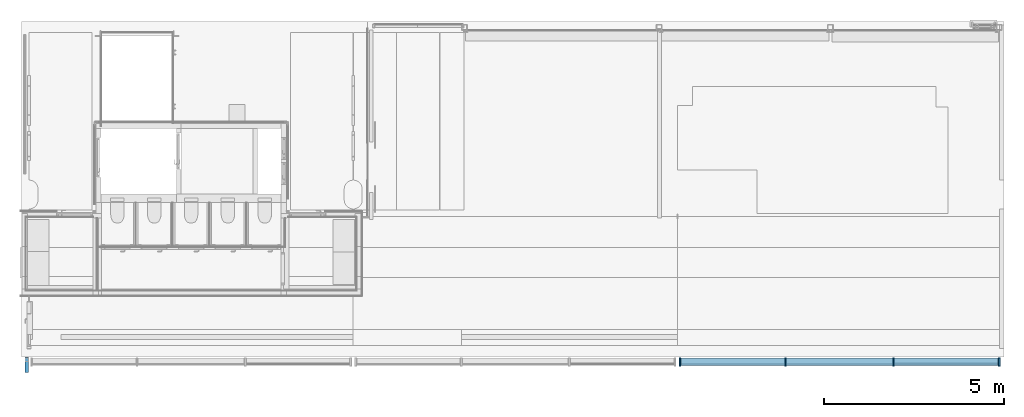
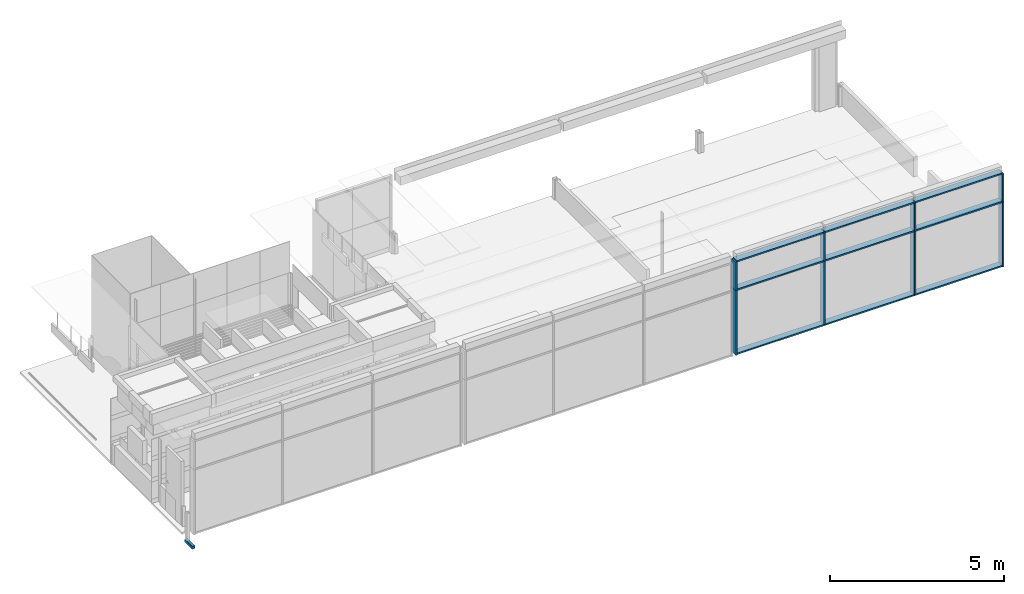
# One storey, part 5 of 26: 17 members, 1 beam, 1 element without a shape of its own.
"""IFC2X3 building model written with IfcOpenShell, lengths in millimetres."""

from ifc_helpers import new_model, entity, si_unit, converted_unit, derived_unit, direction, frame, frame_2d, origin, origin_with_axes, origin_2d_with_axis, place, context, subcontext, project, spatial, polyline, circle_curve, parameter, trimmed, segment, composite_curve, rectangle, outline, extrude, source, transform, mapped, material, type_object, element, aggregate, save


model = new_model("IFC2X3")

# Units and contexts
model_context = context("Model", 3, precision=0.01, world=frame((0.0, 4.29681676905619e-09, 0.0)), true_north=direction((4.01073788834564e-13, 1.0)))
plan_context = context("Plan", 3, precision=0.01, world=frame((0.0, 4.29681676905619e-09, 0.0)), true_north=direction((4.01073788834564e-13, 1.0)))
body_context = subcontext(model_context, "Body", "Model", "MODEL_VIEW")
ifc_project = project(units=[converted_unit("PLANEANGLEUNIT", "DEGREE", entity("IfcPositiveLengthMeasure", 0.0174532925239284), si_unit("PLANEANGLEUNIT", "RADIAN"), dimensions=[0, 0, 0, 0, 0, 0, 0]), si_unit("AREAUNIT", "SQUARE_METRE"), si_unit("LENGTHUNIT", "METRE", prefix="MILLI"), si_unit("MASSUNIT", "GRAM", prefix="KILO"), si_unit("POWERUNIT", "WATT"), si_unit("PRESSUREUNIT", "PASCAL", prefix="KILO"), si_unit("FORCEUNIT", "NEWTON", prefix="KILO"), si_unit("ELECTRICVOLTAGEUNIT", "VOLT"), si_unit("ELECTRICCURRENTUNIT", "AMPERE"), si_unit("THERMODYNAMICTEMPERATUREUNIT", "DEGREE_CELSIUS"), si_unit("TIMEUNIT", "SECOND"), si_unit("VOLUMEUNIT", "CUBIC_METRE"), derived_unit("LINEARVELOCITYUNIT", [(si_unit("LENGTHUNIT", "METRE"), 1), (si_unit("TIMEUNIT", "SECOND"), -1)]), derived_unit("VOLUMETRICFLOWRATEUNIT", [(si_unit("VOLUMEUNIT", "CUBIC_METRE"), 1), (si_unit("TIMEUNIT", "SECOND"), -1)]), derived_unit("THERMALTRANSMITTANCEUNIT", [(si_unit("POWERUNIT", "WATT"), 1), (si_unit("THERMODYNAMICTEMPERATUREUNIT", "KELVIN"), -1), (si_unit("AREAUNIT", "SQUARE_METRE"), -1)]), derived_unit("SOUNDPRESSUREUNIT", [(si_unit("PRESSUREUNIT", "PASCAL"), 1)])], contexts=[model_context, plan_context])

# Site, building, storey
site_placement = place(None, origin_with_axes())
site = spatial("IfcSite", under=ifc_project, at=site_placement, Name="ENGM", CompositionType="ELEMENT")
building_placement = place(site_placement, origin_with_axes())
building = spatial("IfcBuilding", under=site, at=building_placement, Name="TG", CompositionType="ELEMENT")
storey_placement = place(building_placement, frame((0.0, 0.0, 210200.0), z_axis=(0.0, 0.0, 1.0), x_axis=(1.0, 0.0, 0.0)))
storey = spatial("IfcBuildingStorey", under=building, at=storey_placement, Name="Nivå F - 0,7 m", CompositionType="ELEMENT", Elevation=210200.0)

# Curtain wall, members
curtain_wall_type = type_object("IfcCurtainWallType", Name="Curtain Wall:A232 - UGV - Glass 30 mm", PredefinedType="NOTDEFINED")
curtain_wall_placement = place(storey_placement, frame((0.0, 0.0, -210200.0), z_axis=(0.0, 0.0, 1.0), x_axis=(1.0, 0.0, 0.0)))
curtain_wall = element("IfcCurtainWall", 1, at=curtain_wall_placement, inside=storey, type_object=curtain_wall_type, Name="Curtain Wall:A232 - UGV - Glass 30 mm", ObjectType="Curtain Wall:A232 - UGV - Glass 30 mm")
ifc_material_1 = material(Name="T2_Metal_Aluminium")
member_type_1 = type_object("IfcMemberType", Name="Rectangular Mullion:A233 - Sprosse - 165(post)+50(dekkprofil) x 50 mm", PredefinedType="MULLION", material=ifc_material_1)
shared_shape_1 = source(origin(), body_context, "Body", "SweptSolid", [
    extrude(rectangle(XDim=214.999999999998, YDim=50.0, at=frame_2d((7.105427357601e-15, 0.0), x_axis=(1.0, 0.0))), frame((-25.0, 57.5000000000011, -2905.0), z_axis=(0.0, 0.0, 1.0), x_axis=(0.0, -1.0, 0.0)), (0.0, 0.0, 1.0), 2904.99999999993),
])
member_1_placement = place(curtain_wall_placement, frame((342999.725000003, 458000.0, 210180.0), z_axis=(1.0, 0.0, 0.0), x_axis=(0.0, 0.0, -1.0)))
member_1 = element("IfcMember", 2, at=member_1_placement, type_object=member_type_1, material=ifc_material_1, Name="Rectangular Mullion:A233 - Sprosse - 165(post)+50(dekkprofil) x 50 mm", ObjectType="Rectangular Mullion:A233 - Sprosse - 165(post)+50(dekkprofil) x 50 mm", context=body_context, shape_type="MappedRepresentation", body=[
    mapped(shared_shape_1, transform((0.0, 0.0, 0.0), scale=1.0)),
])
member_type_2 = type_object("IfcMemberType", Name="Rectangular Mullion:A233 - Sprosse - 165(post)+50(dekkprofil) x 50 mm", PredefinedType="MULLION", material=ifc_material_1)
shared_shape_2 = source(origin(), body_context, "Body", "SweptSolid", [
    extrude(rectangle(XDim=214.999999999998, YDim=50.0, at=frame_2d((7.105427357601e-15, 0.0), x_axis=(1.0, 0.0))), frame((-25.0, 57.5000000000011, -3000.0), z_axis=(0.0, 0.0, 1.0), x_axis=(0.0, -1.0, 0.0)), (0.0, 0.0, 1.0), 3000.00000000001),
])
member_2_placement = place(curtain_wall_placement, frame((345999.725000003, 457999.999999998, 210180.0), z_axis=(1.0, 0.0, 0.0), x_axis=(0.0, 0.0, -1.0)))
member_2 = element("IfcMember", 3, at=member_2_placement, type_object=member_type_2, material=ifc_material_1, Name="Rectangular Mullion:A233 - Sprosse - 165(post)+50(dekkprofil) x 50 mm", ObjectType="Rectangular Mullion:A233 - Sprosse - 165(post)+50(dekkprofil) x 50 mm", context=body_context, shape_type="MappedRepresentation", body=[
    mapped(shared_shape_2, transform((0.0, 0.0, 0.0), scale=1.0)),
])
member_type_3 = type_object("IfcMemberType", Name="Rectangular Mullion:A233 - Sprosse - 165(post)+70(dekkprofil) x 50 mm", PredefinedType="MULLION", material=ifc_material_1)
shared_shape_3 = source(origin(), body_context, "Body", "SweptSolid", [
    extrude(rectangle(XDim=50.0, YDim=234.999999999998, at=origin_2d_with_axis()), frame((0.0, 47.5000000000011, -2225.0), z_axis=(0.0, 0.0, 1.0), x_axis=(-1.0, 0.0, 0.0)), (0.0, 0.0, 1.0), 2224.99999999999),
])
member_3_placement = place(curtain_wall_placement, frame((342999.725000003, 458000.0, 210230.0), z_axis=(0.0, 0.0, -1.0), x_axis=(-1.0, 0.0, 0.0)))
member_3 = element("IfcMember", 4, at=member_3_placement, type_object=member_type_3, material=ifc_material_1, Name="Rectangular Mullion:A233 - Sprosse - 165(post)+70(dekkprofil) x 50 mm", ObjectType="Rectangular Mullion:A233 - Sprosse - 165(post)+70(dekkprofil) x 50 mm", context=body_context, shape_type="MappedRepresentation", body=[
    mapped(shared_shape_3, transform((0.0, 0.0, 0.0), scale=1.0)),
])
member_4_placement = place(curtain_wall_placement, frame((345999.725000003, 457999.999999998, 210230.0), z_axis=(0.0, 0.0, -1.0), x_axis=(-1.0, 0.0, 0.0)))
member_4 = element("IfcMember", 5, at=member_4_placement, type_object=member_type_3, material=ifc_material_1, Name="Rectangular Mullion:A233 - Sprosse - 165(post)+70(dekkprofil) x 50 mm", ObjectType="Rectangular Mullion:A233 - Sprosse - 165(post)+70(dekkprofil) x 50 mm", context=body_context, shape_type="MappedRepresentation", body=[
    mapped(shared_shape_3, transform((0.0, 0.0, 0.0), scale=1.0)),
])
member_type_4 = type_object("IfcMemberType", Name="Rectangular Mullion:A233 - Sprosse - 165(post)+70(dekkprofil) x 50 mm", PredefinedType="MULLION", material=ifc_material_1)
shared_shape_4 = source(origin(), body_context, "Body", "SweptSolid", [
    extrude(rectangle(XDim=234.999999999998, YDim=50.0, at=frame_2d((7.105427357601e-15, 0.0), x_axis=(1.0, 0.0))), frame((-25.0, 47.5000000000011, -1000.0), z_axis=(0.0, 0.0, 1.0), x_axis=(0.0, -1.0, 0.0)), (0.0, 0.0, 1.0), 1000.0),
])
member_5_placement = place(curtain_wall_placement, frame((348953.500000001, 457999.999999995, 213455.0), z_axis=(0.0, 0.0, 1.0), x_axis=(1.0, 0.0, 0.0)))
member_5 = element("IfcMember", 6, at=member_5_placement, type_object=member_type_4, material=ifc_material_1, Name="Rectangular Mullion:A233 - Sprosse - 165(post)+70(dekkprofil) x 50 mm", ObjectType="Rectangular Mullion:A233 - Sprosse - 165(post)+70(dekkprofil) x 50 mm", context=body_context, shape_type="MappedRepresentation", body=[
    mapped(shared_shape_4, transform((0.0, 0.0, 0.0), scale=1.0)),
])
member_type_5 = type_object("IfcMemberType", Name="Rectangular Mullion:A233 - Sprosse - 165(post)+50(dekkprofil) x 50 mm", PredefinedType="MULLION", material=ifc_material_1)
shared_shape_5 = source(origin(), body_context, "Body", "SweptSolid", [
    extrude(rectangle(XDim=50.0, YDim=214.999999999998, at=frame_2d((0.0, -1.4210854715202e-14), x_axis=(1.0, 0.0))), frame((0.0, 57.5000000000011, -2880.0), z_axis=(0.0, 0.0, 1.0), x_axis=(-1.0, 0.0, 0.0)), (0.0, 0.0, 1.0), 2880.0),
])
member_6_placement = place(curtain_wall_placement, frame((340094.725000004, 458000.000000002, 213455.0), z_axis=(-1.0, 0.0, 0.0), x_axis=(0.0, 0.0, 1.0)))
member_6 = element("IfcMember", 7, at=member_6_placement, type_object=member_type_5, material=ifc_material_1, Name="Rectangular Mullion:A233 - Sprosse - 165(post)+50(dekkprofil) x 50 mm", ObjectType="Rectangular Mullion:A233 - Sprosse - 165(post)+50(dekkprofil) x 50 mm", context=body_context, shape_type="MappedRepresentation", body=[
    mapped(shared_shape_5, transform((0.0, 0.0, 0.0), scale=1.0)),
])
member_7_placement = place(curtain_wall_placement, frame((340094.725000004, 458000.000000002, 212455.0), z_axis=(-1.0, 0.0, 0.0), x_axis=(0.0, 0.0, 1.0)))
member_7 = element("IfcMember", 8, at=member_7_placement, type_object=member_type_5, material=ifc_material_1, Name="Rectangular Mullion:A233 - Sprosse - 165(post)+50(dekkprofil) x 50 mm", ObjectType="Rectangular Mullion:A233 - Sprosse - 165(post)+50(dekkprofil) x 50 mm", context=body_context, shape_type="MappedRepresentation", body=[
    mapped(shared_shape_5, transform((0.0, 0.0, 0.0), scale=1.0)),
])
member_type_6 = type_object("IfcMemberType", Name="Rectangular Mullion:A233 - Sprosse - 165(post)+50(dekkprofil) x 50 mm", PredefinedType="MULLION", material=ifc_material_1)
shared_shape_6 = source(origin(), body_context, "Body", "SweptSolid", [
    extrude(rectangle(XDim=50.0, YDim=214.999999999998, at=frame_2d((0.0, -1.4210854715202e-14), x_axis=(1.0, 0.0))), frame((0.0, 57.5000000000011, -2950.0), z_axis=(0.0, 0.0, 1.0), x_axis=(-1.0, 0.0, 0.0)), (0.0, 0.0, 1.0), 2950.00000000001),
])
member_8_placement = place(curtain_wall_placement, frame((343024.725000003, 458000.0, 213455.0), z_axis=(-1.0, 0.0, 0.0), x_axis=(0.0, 0.0, 1.0)))
member_8 = element("IfcMember", 9, at=member_8_placement, type_object=member_type_6, material=ifc_material_1, Name="Rectangular Mullion:A233 - Sprosse - 165(post)+50(dekkprofil) x 50 mm", ObjectType="Rectangular Mullion:A233 - Sprosse - 165(post)+50(dekkprofil) x 50 mm", context=body_context, shape_type="MappedRepresentation", body=[
    mapped(shared_shape_6, transform((0.0, 0.0, 0.0), scale=1.0)),
])
member_9_placement = place(curtain_wall_placement, frame((343024.725000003, 458000.0, 212455.0), z_axis=(-1.0, 0.0, 0.0), x_axis=(0.0, 0.0, 1.0)))
member_9 = element("IfcMember", 10, at=member_9_placement, type_object=member_type_6, material=ifc_material_1, Name="Rectangular Mullion:A233 - Sprosse - 165(post)+50(dekkprofil) x 50 mm", ObjectType="Rectangular Mullion:A233 - Sprosse - 165(post)+50(dekkprofil) x 50 mm", context=body_context, shape_type="MappedRepresentation", body=[
    mapped(shared_shape_6, transform((0.0, 0.0, 0.0), scale=1.0)),
])
member_type_7 = type_object("IfcMemberType", Name="Rectangular Mullion:A233 - Sprosse - 165(post)+70(dekkprofil) x 50 mm", PredefinedType="MULLION", material=ifc_material_1)
shared_shape_7 = source(origin(), body_context, "Body", "SweptSolid", [
    extrude(rectangle(XDim=50.0, YDim=234.999999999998, at=frame_2d((0.0, -2.1316282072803e-14), x_axis=(1.0, 0.0))), frame((-25.0, 47.5000000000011, -1000.0), z_axis=(0.0, 0.0, 1.0), x_axis=(-1.0, 0.0, 0.0)), (0.0, 0.0, 1.0), 1000.0),
])
member_10_placement = place(curtain_wall_placement, frame((340044.725000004, 458000.000000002, 212455.0), z_axis=(0.0, 0.0, -1.0), x_axis=(-1.0, 0.0, 0.0)))
member_10 = element("IfcMember", 11, at=member_10_placement, type_object=member_type_7, material=ifc_material_1, Name="Rectangular Mullion:A233 - Sprosse - 165(post)+70(dekkprofil) x 50 mm", ObjectType="Rectangular Mullion:A233 - Sprosse - 165(post)+70(dekkprofil) x 50 mm", context=body_context, shape_type="MappedRepresentation", body=[
    mapped(shared_shape_7, transform((0.0, 0.0, 0.0), scale=1.0)),
])
member_type_8 = type_object("IfcMemberType", Name="Rectangular Mullion:A233 - Sprosse - 165(post)+70(dekkprofil) x 50 mm", PredefinedType="MULLION", material=ifc_material_1)
shared_shape_8 = source(origin(), body_context, "Body", "SweptSolid", [
    extrude(rectangle(XDim=50.0, YDim=234.999999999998, at=origin_2d_with_axis()), frame((0.0, 47.5000000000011, -1000.0), z_axis=(0.0, 0.0, 1.0), x_axis=(-1.0, 0.0, 0.0)), (0.0, 0.0, 1.0), 1000.0),
])
member_11_placement = place(curtain_wall_placement, frame((342999.725000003, 458000.0, 212455.0), z_axis=(0.0, 0.0, -1.0), x_axis=(-1.0, 0.0, 0.0)))
member_11 = element("IfcMember", 12, at=member_11_placement, type_object=member_type_8, material=ifc_material_1, Name="Rectangular Mullion:A233 - Sprosse - 165(post)+70(dekkprofil) x 50 mm", ObjectType="Rectangular Mullion:A233 - Sprosse - 165(post)+70(dekkprofil) x 50 mm", context=body_context, shape_type="MappedRepresentation", body=[
    mapped(shared_shape_8, transform((0.0, 0.0, 0.0), scale=1.0)),
])
member_12_placement = place(curtain_wall_placement, frame((345999.725000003, 457999.999999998, 212455.0), z_axis=(0.0, 0.0, -1.0), x_axis=(-1.0, 0.0, 0.0)))
member_12 = element("IfcMember", 13, at=member_12_placement, type_object=member_type_8, material=ifc_material_1, Name="Rectangular Mullion:A233 - Sprosse - 165(post)+70(dekkprofil) x 50 mm", ObjectType="Rectangular Mullion:A233 - Sprosse - 165(post)+70(dekkprofil) x 50 mm", context=body_context, shape_type="MappedRepresentation", body=[
    mapped(shared_shape_8, transform((0.0, 0.0, 0.0), scale=1.0)),
])
member_type_9 = type_object("IfcMemberType", Name="Rectangular Mullion:A233 - Sprosse - 165(post)+70(dekkprofil) x 50 mm", PredefinedType="MULLION", material=ifc_material_1)
shared_shape_9 = source(origin(), body_context, "Body", "SweptSolid", [
    extrude(rectangle(XDim=234.999999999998, YDim=50.0, at=frame_2d((7.105427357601e-15, 0.0), x_axis=(1.0, 0.0))), frame((-25.0, 47.5000000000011, -2275.0), z_axis=(0.0, 0.0, 1.0), x_axis=(0.0, -1.0, 0.0)), (0.0, 0.0, 1.0), 2275.0),
])
member_13_placement = place(curtain_wall_placement, frame((348953.500000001, 457999.999999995, 212455.0), z_axis=(0.0, 0.0, 1.0), x_axis=(1.0, 0.0, 0.0)))
member_13 = element("IfcMember", 14, at=member_13_placement, type_object=member_type_9, material=ifc_material_1, Name="Rectangular Mullion:A233 - Sprosse - 165(post)+70(dekkprofil) x 50 mm", ObjectType="Rectangular Mullion:A233 - Sprosse - 165(post)+70(dekkprofil) x 50 mm", context=body_context, shape_type="MappedRepresentation", body=[
    mapped(shared_shape_9, transform((0.0, 0.0, 0.0), scale=1.0)),
])
member_type_10 = type_object("IfcMemberType", Name="Rectangular Mullion:A233 - Sprosse - 165(post)+70(dekkprofil) x 50 mm", PredefinedType="MULLION", material=ifc_material_1)
shared_shape_10 = source(origin(), body_context, "Body", "SweptSolid", [
    extrude(rectangle(XDim=50.0, YDim=234.999999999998, at=origin_2d_with_axis()), frame((-25.0, 47.5000000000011, -2275.0), z_axis=(0.0, 0.0, 1.0), x_axis=(-1.0, 0.0, 0.0)), (0.0, 0.0, 1.0), 2274.99999999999),
])
member_14_placement = place(curtain_wall_placement, frame((340044.725000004, 458000.000000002, 210180.0), z_axis=(0.0, 0.0, -1.0), x_axis=(-1.0, 0.0, 0.0)))
member_14 = element("IfcMember", 15, at=member_14_placement, type_object=member_type_10, material=ifc_material_1, Name="Rectangular Mullion:A233 - Sprosse - 165(post)+70(dekkprofil) x 50 mm", ObjectType="Rectangular Mullion:A233 - Sprosse - 165(post)+70(dekkprofil) x 50 mm", context=body_context, shape_type="MappedRepresentation", body=[
    mapped(shared_shape_10, transform((0.0, 0.0, 0.0), scale=1.0)),
])
member_type_11 = type_object("IfcMemberType", Name="Rectangular Mullion:A233 - Sprosse - 165(post)+50(dekkprofil) x 50 mm", PredefinedType="MULLION", material=ifc_material_1)
shared_shape_11 = source(origin(), body_context, "Body", "SweptSolid", [
    extrude(rectangle(XDim=214.999999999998, YDim=50.0, at=frame_2d((7.105427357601e-15, 0.0), x_axis=(1.0, 0.0))), frame((-25.0, 57.5000000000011, -2903.77499999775), z_axis=(0.0, 0.0, 1.0), x_axis=(0.0, -1.0, 0.0)), (0.0, 0.0, 1.0), 2903.77499999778),
])
member_15_placement = place(curtain_wall_placement, frame((348903.500000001, 457999.999999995, 210180.0), z_axis=(1.0, 0.0, 0.0), x_axis=(0.0, 0.0, -1.0)))
member_15 = element("IfcMember", 16, at=member_15_placement, type_object=member_type_11, material=ifc_material_1, Name="Rectangular Mullion:A233 - Sprosse - 165(post)+50(dekkprofil) x 50 mm", ObjectType="Rectangular Mullion:A233 - Sprosse - 165(post)+50(dekkprofil) x 50 mm", context=body_context, shape_type="MappedRepresentation", body=[
    mapped(shared_shape_11, transform((0.0, 0.0, 0.0), scale=1.0)),
])
member_type_12 = type_object("IfcMemberType", Name="Rectangular Mullion:A233 - Sprosse - 165(post)+50(dekkprofil) x 50 mm", PredefinedType="MULLION", material=ifc_material_1)
shared_shape_12 = source(origin(), body_context, "Body", "SweptSolid", [
    extrude(rectangle(XDim=50.0, YDim=214.999999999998, at=frame_2d((0.0, -1.4210854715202e-14), x_axis=(1.0, 0.0))), frame((0.0, 57.5000000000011, -2878.77499999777), z_axis=(0.0, 0.0, 1.0), x_axis=(-1.0, 0.0, 0.0)), (0.0, 0.0, 1.0), 2878.77499999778),
])
member_16_placement = place(curtain_wall_placement, frame((346024.725000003, 457999.999999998, 213455.0), z_axis=(-1.0, 0.0, 0.0), x_axis=(0.0, 0.0, 1.0)))
member_16 = element("IfcMember", 17, at=member_16_placement, type_object=member_type_12, material=ifc_material_1, Name="Rectangular Mullion:A233 - Sprosse - 165(post)+50(dekkprofil) x 50 mm", ObjectType="Rectangular Mullion:A233 - Sprosse - 165(post)+50(dekkprofil) x 50 mm", context=body_context, shape_type="MappedRepresentation", body=[
    mapped(shared_shape_12, transform((0.0, 0.0, 0.0), scale=1.0)),
])
member_17_placement = place(curtain_wall_placement, frame((346024.725000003, 457999.999999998, 212455.0), z_axis=(-1.0, 0.0, 0.0), x_axis=(0.0, 0.0, 1.0)))
member_17 = element("IfcMember", 18, at=member_17_placement, type_object=member_type_12, material=ifc_material_1, Name="Rectangular Mullion:A233 - Sprosse - 165(post)+50(dekkprofil) x 50 mm", ObjectType="Rectangular Mullion:A233 - Sprosse - 165(post)+50(dekkprofil) x 50 mm", context=body_context, shape_type="MappedRepresentation", body=[
    mapped(shared_shape_12, transform((0.0, 0.0, 0.0), scale=1.0)),
])
aggregate(curtain_wall, [member_15, member_1, member_2, member_3, member_4, member_5, member_16, member_6, member_8, member_10, member_11, member_12, member_13, member_17, member_7, member_9, member_14])

# Beam
ifc_material_2 = material(Name="_NSW Stål")
beam_type = type_object("IfcBeamType", Name="B223 - Bjelke - HUP:B223 - HUP 100 x 100 x 5 mm", PredefinedType="BEAM")
beam_placement = place(storey_placement, frame((321940.353450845, 458189.987030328, -270.0), z_axis=(0.0, 0.0, 1.0), x_axis=(0.0, -1.0, 0.0)))
element("IfcBeam", 19, at=beam_placement, inside=storey, type_object=beam_type, material=ifc_material_2, Name="B223 - Bjelke - HUP:B223 - HUP 100 x 100 x 5 mm", ObjectType="B223 - Bjelke - HUP:B223 - HUP 100 x 100 x 5 mm", context=body_context, shape_type="SweptSolid", body=[
    extrude(outline(composite_curve([segment(polyline([(-45.0, -50.0), (45.0, -50.0)]), True, "CONTINUOUS"), segment(trimmed(circle_curve(frame_2d((45.0, -45.0), x_axis=(1.0, 0.0)), 5.0), [parameter(270.000000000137)], [parameter(0.0)], True, "PARAMETER"), True, "CONTINUOUS"), segment(polyline([(50.0, -45.0), (50.0, 45.0)]), True, "CONTINUOUS"), segment(trimmed(circle_curve(frame_2d((45.0, 45.0), x_axis=(0.0, 1.0)), 5.0), [parameter(270.0)], [parameter(359.999999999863)], True, "PARAMETER"), True, "CONTINUOUS"), segment(polyline([(45.0, 50.0), (-45.0, 50.0)]), True, "CONTINUOUS"), segment(trimmed(circle_curve(frame_2d((-45.0, 45.0), x_axis=(-1.0, 0.0)), 5.0), [parameter(269.999999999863)], [parameter(3.05333249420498e-13)], True, "PARAMETER"), True, "CONTINUOUS"), segment(polyline([(-50.0, 45.0), (-50.0, -45.0)]), True, "CONTINUOUS"), segment(trimmed(circle_curve(frame_2d((-45.0, -45.0), x_axis=(0.0, -1.0)), 5.0), [parameter(270.0)], [parameter(1.37552628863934e-10)], True, "PARAMETER"), True, "CONTINUOUS")], self_intersect=False), holes=[composite_curve([segment(trimmed(circle_curve(frame_2d((-42.5000000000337, -42.499999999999), x_axis=(-1.0, 0.0)), 2.5), [parameter(359.999999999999)], [parameter(89.9999999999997)], True, "PARAMETER"), False, "CONTINUOUS"), segment(polyline([(-45.0, -42.499999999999), (-45.0, 42.499999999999)]), True, "CONTINUOUS"), segment(trimmed(circle_curve(frame_2d((-42.5000000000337, 42.499999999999), x_axis=(0.0, 1.0)), 2.5), [parameter(360.0)], [parameter(90.0000000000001)], True, "PARAMETER"), False, "CONTINUOUS"), segment(polyline([(-42.4999999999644, 45.0), (42.5000000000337, 45.0)]), True, "CONTINUOUS"), segment(trimmed(circle_curve(frame_2d((42.4999999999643, 42.499999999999), x_axis=(1.0, 0.0)), 2.5), [parameter(0.0)], [parameter(90.0000000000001)], True, "PARAMETER"), False, "CONTINUOUS"), segment(polyline([(45.0, 42.499999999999), (45.0, -42.499999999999)]), True, "CONTINUOUS"), segment(trimmed(circle_curve(frame_2d((42.4999999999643, -42.499999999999), x_axis=(0.0, -1.0)), 2.5), [parameter(0.0)], [parameter(90.0000000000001)], True, "PARAMETER"), False, "CONTINUOUS"), segment(polyline([(42.5000000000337, -45.0), (-42.4999999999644, -45.0)]), True, "CONTINUOUS")], self_intersect=False)]), frame((0.0, 0.0, -50.0), z_axis=(1.0, 0.0, 0.0), x_axis=(0.0, -1.0, 0.0)), (0.0, 0.0, 1.0), 425.000000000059),
])

save(model, "model.ifc")
